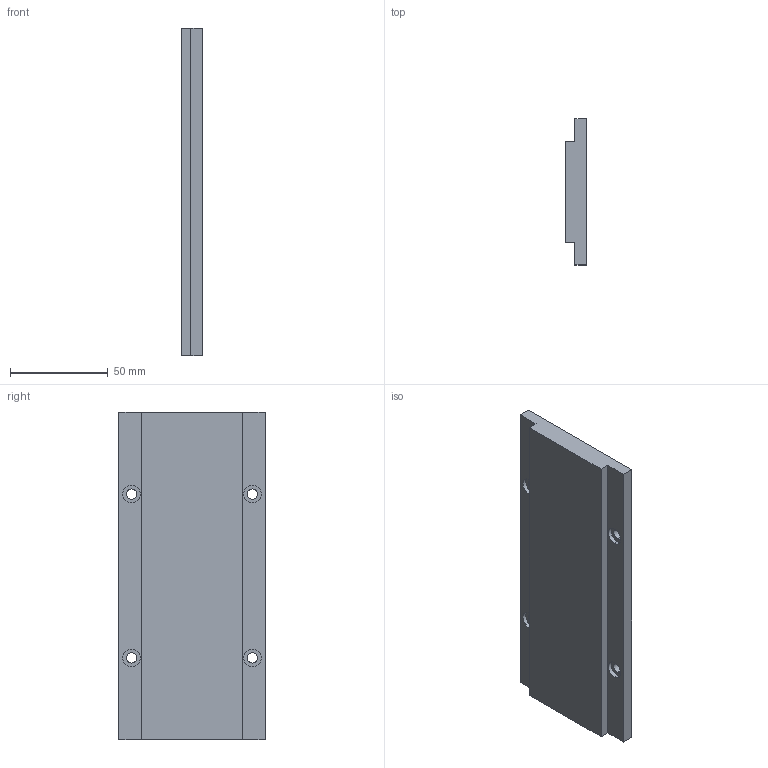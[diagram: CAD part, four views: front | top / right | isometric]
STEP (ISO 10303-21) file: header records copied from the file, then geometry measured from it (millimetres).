
FILE_DESCRIPTION (( 'STEP AP214' ), '1' );
FILE_NAME ('2-WKM50-168.STEP', '2025-09-05T11:47:49', ( '' ), ( '' ), 'SwSTEP 2.0', 'SolidWorks 2016', '' );
FILE_SCHEMA (( 'AUTOMOTIVE_DESIGN' ));
Length unit declared in the file: millimetre
Products named in the file (1): 2-WKM50-168
Bounding box: 10.8 x 75 x 168 mm (x, y, z)
Volume: 116670.9 mm3; surface area: 30544.1 mm2
Topology: 1 solids, 1 shells, 30 faces, 72 edges, 48 vertices
Faces by surface type: cylinder 16, plane 14
Entity records: 938 total; most frequent: DIRECTION 166, CARTESIAN_POINT 151, ORIENTED_EDGE 144, EDGE_CURVE 72, AXIS2_PLACEMENT_3D 63, VERTEX_POINT 48, EDGE_LOOP 42, LINE 40
